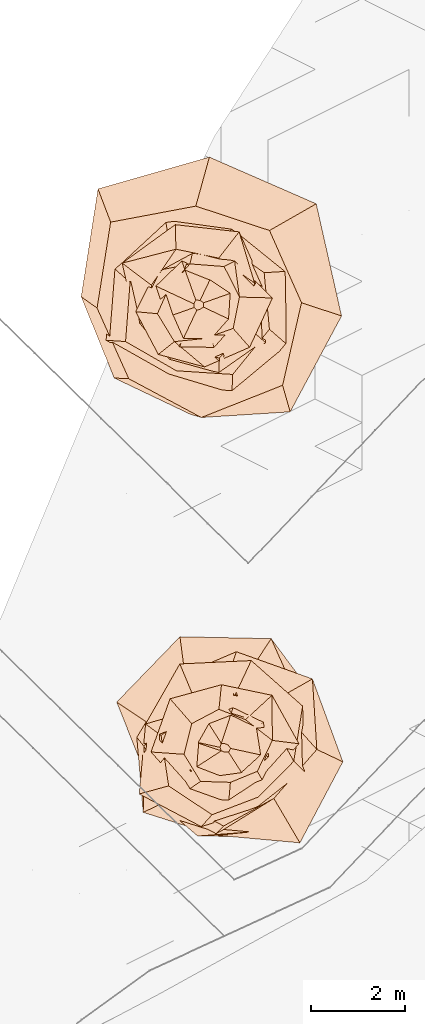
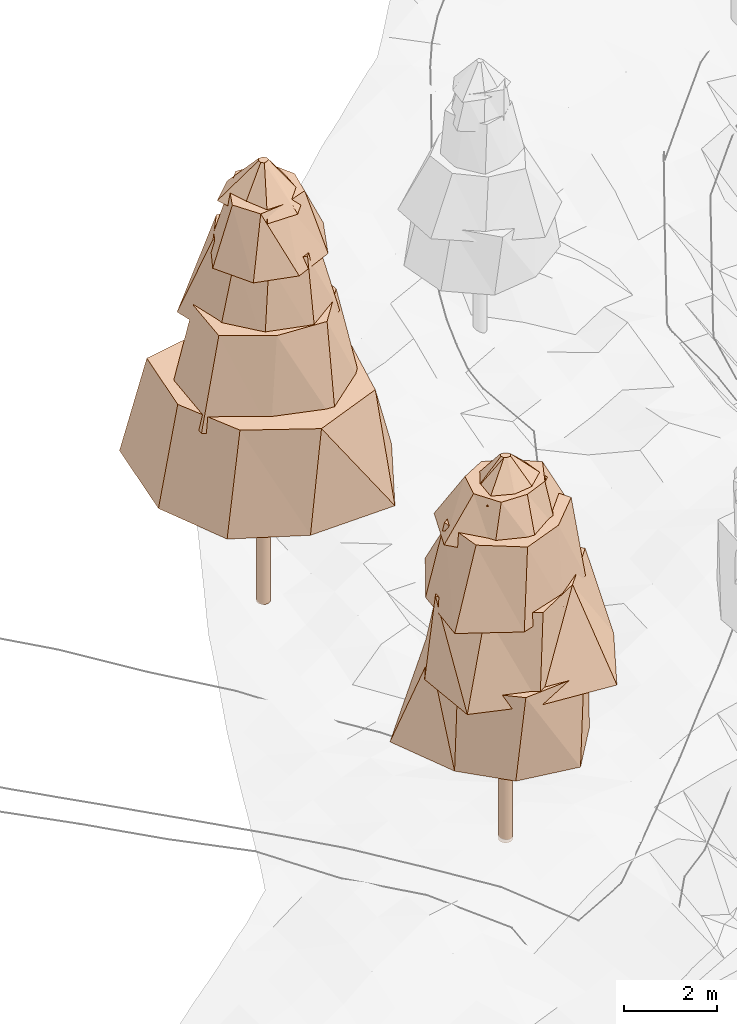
# Not in any storey, part 36 of 88: 2 geographic elements.
"""IFC4 model written with IfcOpenShell, lengths in metres."""

from ifc_helpers import new_model, si_unit, frame, origin_with_axes, place, context, subcontext, project, spatial, circle, extrude, faceted_brep, element, save


model = new_model("IFC4")

# Units and contexts
model_context = context("Model", 3, precision=1e-05, world=origin_with_axes())
body_context = subcontext(model_context, "Body", "Model", "MODEL_VIEW")
ifc_project = project(units=[si_unit("LENGTHUNIT", "METRE"), si_unit("AREAUNIT", "SQUARE_METRE"), si_unit("VOLUMEUNIT", "CUBIC_METRE"), si_unit("PLANEANGLEUNIT", "RADIAN")], contexts=[model_context])

# Sites
site_1_placement = place(None, origin_with_axes())
site_1 = spatial("IfcSite", under=ifc_project, at=site_1_placement, Name="CH907857693633", CompositionType="ELEMENT")
site_2_placement = place(None, origin_with_axes())
site_2 = spatial("IfcSite", under=site_1, at=site_2_placement, Name="Simulated_forest", CompositionType="ELEMENT")

# Geographic elements
geographic_element_1_placement = place(None, frame((82.0884420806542, 55.5950034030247, 3.125244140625), z_axis=(0.0, 0.0, 1.0), x_axis=(1.0, 0.0, 0.0)))
element("IfcGeographicElement", 1, at=geographic_element_1_placement, inside=site_2, Name="Tree_SIMULATED_WOODED_AREA", ObjectType="VEGETATION", PredefinedType="USERDEFINED", context=body_context, shape_type="Brep", body=[
    extrude(circle(Radius=0.15), origin_with_axes(), (0.0, 0.0, 1.0), 2.75114978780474),
    faceted_brep([(1.66659085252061, -0.704743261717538, 2.75114978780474), (0.764788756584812, -1.8855062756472, 2.75114978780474), (-0.696642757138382, -1.64743461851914, 2.75114978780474), (-1.64582508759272, -0.667570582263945, 2.75114978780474), (-2.29855084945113, 0.971977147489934, 2.75114978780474), (-0.95687576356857, 2.35907659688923, 2.75114978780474), (0.980467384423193, 2.3186287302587, 2.75114978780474), (2.07720635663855, 0.842545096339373, 2.75114978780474), (1.63094673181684, 0.860183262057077, 5.02940548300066), (0.481930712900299, 1.55761410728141, 5.02940548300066), (-0.86029541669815, 1.63115938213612, 5.02940548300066), (-1.57785423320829, 0.488193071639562, 5.02940548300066), (-1.71095250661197, -0.902379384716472, 5.02940548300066), (-0.579352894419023, -1.87248543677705, 5.02940548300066), (0.925437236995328, -1.75467124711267, 5.02940548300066), (1.73129746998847, -0.535668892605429, 5.02940548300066), (2.07720635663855, 0.842545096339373, 2.75114978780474), (0.980467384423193, 2.3186287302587, 2.75114978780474), (0.481930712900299, 1.55761410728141, 5.02940548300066), (1.63094673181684, 0.860183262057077, 5.02940548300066), (0.980467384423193, 2.3186287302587, 2.75114978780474), (-0.95687576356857, 2.35907659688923, 2.75114978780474), (-0.86029541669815, 1.63115938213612, 5.02940548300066), (0.481930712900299, 1.55761410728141, 5.02940548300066), (-0.95687576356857, 2.35907659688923, 2.75114978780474), (-2.29855084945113, 0.971977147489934, 2.75114978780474), (-1.57785423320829, 0.488193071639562, 5.02940548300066), (-0.86029541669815, 1.63115938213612, 5.02940548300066), (-2.29855084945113, 0.971977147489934, 2.75114978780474), (-1.64582508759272, -0.667570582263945, 2.75114978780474), (-1.71095250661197, -0.902379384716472, 5.02940548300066), (-1.57785423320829, 0.488193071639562, 5.02940548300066), (-1.64582508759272, -0.667570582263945, 2.75114978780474), (-0.696642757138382, -1.64743461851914, 2.75114978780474), (-0.579352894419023, -1.87248543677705, 5.02940548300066), (-1.71095250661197, -0.902379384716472, 5.02940548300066), (-0.696642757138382, -1.64743461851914, 2.75114978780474), (0.764788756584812, -1.8855062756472, 2.75114978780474), (0.925437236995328, -1.75467124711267, 5.02940548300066), (-0.579352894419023, -1.87248543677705, 5.02940548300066), (0.764788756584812, -1.8855062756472, 2.75114978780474), (1.66659085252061, -0.704743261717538, 2.75114978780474), (1.73129746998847, -0.535668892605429, 5.02940548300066), (0.925437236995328, -1.75467124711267, 5.02940548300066), (1.66659085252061, -0.704743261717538, 2.75114978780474), (2.07720635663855, 0.842545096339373, 2.75114978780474), (1.63094673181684, 0.860183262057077, 5.02940548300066), (1.73129746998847, -0.535668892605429, 5.02940548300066)], [[[0, 1, 2, 3, 4, 5, 6, 7]], [[8, 9, 10, 11, 12, 13, 14, 15]], [[16, 17, 18, 19]], [[20, 21, 22, 23]], [[24, 25, 26, 27]], [[28, 29, 30, 31]], [[32, 33, 34, 35]], [[36, 37, 38, 39]], [[40, 41, 42, 43]], [[44, 45, 46, 47]]]),
    faceted_brep([(2.50198627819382, -0.295852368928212, 4.68766712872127), (1.59049727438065, -2.01708279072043, 4.68766712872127), (-0.218912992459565, -1.85131964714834, 4.68766712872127), (-1.73624955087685, -1.36905643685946, 4.68766712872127), (-1.87191459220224, 0.221348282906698, 4.68766712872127), (-1.14200066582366, 1.44829540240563, 4.68766712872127), (0.241297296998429, 2.04062089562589, 4.68766712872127), (1.85612954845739, 1.46358344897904, 4.68766712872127), (1.03194326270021, 0.996043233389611, 6.93624123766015), (0.0243539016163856, 1.37574772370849, 6.93624123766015), (-0.960427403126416, 0.995043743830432, 6.93624123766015), (-1.71945439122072, 0.0304383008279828, 6.93624123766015), (-1.11705241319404, -1.07819154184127, 6.93624123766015), (-0.0293757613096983, -1.65943171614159, 6.93624123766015), (1.03701347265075, -1.0743901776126, 6.93624123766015), (1.95031231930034, -0.0345250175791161, 6.93624123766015), (1.85612954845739, 1.46358344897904, 4.68766712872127), (0.241297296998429, 2.04062089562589, 4.68766712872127), (0.0243539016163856, 1.37574772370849, 6.93624123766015), (1.03194326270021, 0.996043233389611, 6.93624123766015), (0.241297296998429, 2.04062089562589, 4.68766712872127), (-1.14200066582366, 1.44829540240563, 4.68766712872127), (-0.960427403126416, 0.995043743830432, 6.93624123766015), (0.0243539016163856, 1.37574772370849, 6.93624123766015), (-1.14200066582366, 1.44829540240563, 4.68766712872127), (-1.87191459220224, 0.221348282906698, 4.68766712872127), (-1.71945439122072, 0.0304383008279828, 6.93624123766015), (-0.960427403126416, 0.995043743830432, 6.93624123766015), (-1.87191459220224, 0.221348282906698, 4.68766712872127), (-1.73624955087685, -1.36905643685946, 4.68766712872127), (-1.11705241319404, -1.07819154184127, 6.93624123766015), (-1.71945439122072, 0.0304383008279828, 6.93624123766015), (-1.73624955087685, -1.36905643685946, 4.68766712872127), (-0.218912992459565, -1.85131964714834, 4.68766712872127), (-0.0293757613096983, -1.65943171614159, 6.93624123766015), (-1.11705241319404, -1.07819154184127, 6.93624123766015), (-0.218912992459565, -1.85131964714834, 4.68766712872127), (1.59049727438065, -2.01708279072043, 4.68766712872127), (1.03701347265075, -1.0743901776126, 6.93624123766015), (-0.0293757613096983, -1.65943171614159, 6.93624123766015), (1.59049727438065, -2.01708279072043, 4.68766712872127), (2.50198627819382, -0.295852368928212, 4.68766712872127), (1.95031231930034, -0.0345250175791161, 6.93624123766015), (1.03701347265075, -1.0743901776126, 6.93624123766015), (2.50198627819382, -0.295852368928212, 4.68766712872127), (1.85612954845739, 1.46358344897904, 4.68766712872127), (1.03194326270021, 0.996043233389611, 6.93624123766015), (1.95031231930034, -0.0345250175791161, 6.93624123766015)], [[[0, 1, 2, 3, 4, 5, 6, 7]], [[8, 9, 10, 11, 12, 13, 14, 15]], [[16, 17, 18, 19]], [[20, 21, 22, 23]], [[24, 25, 26, 27]], [[28, 29, 30, 31]], [[32, 33, 34, 35]], [[36, 37, 38, 39]], [[40, 41, 42, 43]], [[44, 45, 46, 47]]]),
    faceted_brep([(1.68505505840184, -0.506060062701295, 6.59895512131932), (0.69287980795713, -1.28768945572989, 6.59895512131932), (-0.502567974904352, -1.67342726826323, 6.59895512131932), (-1.82062383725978, -0.979641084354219, 6.59895512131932), (-1.68642132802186, 0.506470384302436, 6.59895512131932), (-0.958575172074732, 1.78147368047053, 6.59895512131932), (0.556548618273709, 1.85316948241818, 6.59895512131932), (1.64832837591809, 0.886932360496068, 6.59895512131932), (0.945760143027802, 0.638244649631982, 8.58702425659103), (0.219734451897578, 1.13184679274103, 8.58702425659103), (-0.563502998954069, 0.835006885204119, 8.58702425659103), (-1.35678329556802, 0.263403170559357, 8.58702425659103), (-1.19604720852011, -0.807150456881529, 8.58702425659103), (-0.275732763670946, -1.42029272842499, 8.58702425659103), (0.705463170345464, -1.04536551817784, 8.58702425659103), (1.46027063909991, -0.283493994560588, 8.58702425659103), (1.64832837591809, 0.886932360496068, 6.59895512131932), (0.556548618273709, 1.85316948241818, 6.59895512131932), (0.219734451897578, 1.13184679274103, 8.58702425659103), (0.945760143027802, 0.638244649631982, 8.58702425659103), (0.556548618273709, 1.85316948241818, 6.59895512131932), (-0.958575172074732, 1.78147368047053, 6.59895512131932), (-0.563502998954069, 0.835006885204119, 8.58702425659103), (0.219734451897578, 1.13184679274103, 8.58702425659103), (-0.958575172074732, 1.78147368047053, 6.59895512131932), (-1.68642132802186, 0.506470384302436, 6.59895512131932), (-1.35678329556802, 0.263403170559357, 8.58702425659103), (-0.563502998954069, 0.835006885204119, 8.58702425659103), (-1.68642132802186, 0.506470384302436, 6.59895512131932), (-1.82062383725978, -0.979641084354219, 6.59895512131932), (-1.19604720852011, -0.807150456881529, 8.58702425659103), (-1.35678329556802, 0.263403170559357, 8.58702425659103), (-1.82062383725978, -0.979641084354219, 6.59895512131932), (-0.502567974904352, -1.67342726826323, 6.59895512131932), (-0.275732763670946, -1.42029272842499, 8.58702425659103), (-1.19604720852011, -0.807150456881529, 8.58702425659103), (-0.502567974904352, -1.67342726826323, 6.59895512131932), (0.69287980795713, -1.28768945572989, 6.59895512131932), (0.705463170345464, -1.04536551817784, 8.58702425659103), (-0.275732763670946, -1.42029272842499, 8.58702425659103), (0.69287980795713, -1.28768945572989, 6.59895512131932), (1.68505505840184, -0.506060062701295, 6.59895512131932), (1.46027063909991, -0.283493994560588, 8.58702425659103), (0.705463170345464, -1.04536551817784, 8.58702425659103), (1.68505505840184, -0.506060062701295, 6.59895512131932), (1.64832837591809, 0.886932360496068, 6.59895512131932), (0.945760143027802, 0.638244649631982, 8.58702425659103), (1.46027063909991, -0.283493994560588, 8.58702425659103)], [[[0, 1, 2, 3, 4, 5, 6, 7]], [[8, 9, 10, 11, 12, 13, 14, 15]], [[16, 17, 18, 19]], [[20, 21, 22, 23]], [[24, 25, 26, 27]], [[28, 29, 30, 31]], [[32, 33, 34, 35]], [[36, 37, 38, 39]], [[40, 41, 42, 43]], [[44, 45, 46, 47]]]),
    faceted_brep([(0.827231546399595, -0.73948862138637, 8.28881388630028), (0.0695762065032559, -1.24233886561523, 8.28881388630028), (-0.825455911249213, -0.923399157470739, 8.28881388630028), (-1.57033440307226, -0.0879453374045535, 8.28881388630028), (-1.16605509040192, 1.04237377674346, 8.28881388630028), (-0.0750375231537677, 1.33985504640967, 8.28881388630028), (0.997983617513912, 1.11639788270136, 8.28881388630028), (1.57004114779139, 0.0879289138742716, 8.28881388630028), (1.00587919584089, 0.158146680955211, 9.41165623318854), (0.434995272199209, 0.597294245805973, 9.41165623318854), (-0.128813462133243, 0.819307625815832, 9.41165623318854), (-0.70678211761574, 0.51473269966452, 9.41165623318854), (-0.869986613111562, -0.136781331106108, 9.41165623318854), (-0.518838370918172, -0.712419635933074, 9.41165623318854), (0.115154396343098, -0.73243024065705, 9.41165623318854), (0.684866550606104, -0.498772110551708, 9.41165623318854), (1.57004114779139, 0.0879289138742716, 8.28881388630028), (0.997983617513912, 1.11639788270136, 8.28881388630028), (0.434995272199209, 0.597294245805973, 9.41165623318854), (1.00587919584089, 0.158146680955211, 9.41165623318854), (0.997983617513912, 1.11639788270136, 8.28881388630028), (-0.0750375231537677, 1.33985504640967, 8.28881388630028), (-0.128813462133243, 0.819307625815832, 9.41165623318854), (0.434995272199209, 0.597294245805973, 9.41165623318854), (-0.0750375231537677, 1.33985504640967, 8.28881388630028), (-1.16605509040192, 1.04237377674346, 8.28881388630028), (-0.70678211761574, 0.51473269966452, 9.41165623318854), (-0.128813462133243, 0.819307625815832, 9.41165623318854), (-1.16605509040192, 1.04237377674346, 8.28881388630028), (-1.57033440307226, -0.0879453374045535, 8.28881388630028), (-0.869986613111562, -0.136781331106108, 9.41165623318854), (-0.70678211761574, 0.51473269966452, 9.41165623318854), (-1.57033440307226, -0.0879453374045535, 8.28881388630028), (-0.825455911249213, -0.923399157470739, 8.28881388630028), (-0.518838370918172, -0.712419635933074, 9.41165623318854), (-0.869986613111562, -0.136781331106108, 9.41165623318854), (-0.825455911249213, -0.923399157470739, 8.28881388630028), (0.0695762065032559, -1.24233886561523, 8.28881388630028), (0.115154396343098, -0.73243024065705, 9.41165623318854), (-0.518838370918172, -0.712419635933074, 9.41165623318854), (0.0695762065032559, -1.24233886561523, 8.28881388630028), (0.827231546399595, -0.73948862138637, 8.28881388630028), (0.684866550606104, -0.498772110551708, 9.41165623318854), (0.115154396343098, -0.73243024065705, 9.41165623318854), (0.827231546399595, -0.73948862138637, 8.28881388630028), (1.57004114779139, 0.0879289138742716, 8.28881388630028), (1.00587919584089, 0.158146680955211, 9.41165623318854), (0.684866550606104, -0.498772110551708, 9.41165623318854)], [[[0, 1, 2, 3, 4, 5, 6, 7]], [[8, 9, 10, 11, 12, 13, 14, 15]], [[16, 17, 18, 19]], [[20, 21, 22, 23]], [[24, 25, 26, 27]], [[28, 29, 30, 31]], [[32, 33, 34, 35]], [[36, 37, 38, 39]], [[40, 41, 42, 43]], [[44, 45, 46, 47]]]),
    faceted_brep([(0.929382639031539, -0.186868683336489, 9.2432298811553), (0.427871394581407, -0.643236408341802, 9.2432298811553), (-0.145363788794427, -0.722959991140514, 9.2432298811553), (-0.741371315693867, -0.493149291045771, 9.2432298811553), (-0.689205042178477, 0.138576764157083, 9.2432298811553), (-0.415117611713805, 0.624063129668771, 9.2432298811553), (0.171453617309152, 0.852716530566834, 9.2432298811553), (0.816233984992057, 0.542946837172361, 9.2432298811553), (0.069373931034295, 0.056905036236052, 10.032762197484), (0.00854016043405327, 0.0864906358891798, 10.032762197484), (-0.0783115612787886, 0.0954710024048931, 10.032762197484), (-0.108854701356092, 0.0107484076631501, 10.032762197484), (-0.0760419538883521, -0.062374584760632, 10.032762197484), (-0.00913641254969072, -0.0925291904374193, 10.032762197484), (0.0749021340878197, -0.0913145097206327, 10.032762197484), (0.120178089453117, -0.0118664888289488, 10.032762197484), (0.816233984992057, 0.542946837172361, 9.2432298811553), (0.171453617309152, 0.852716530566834, 9.2432298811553), (0.00854016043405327, 0.0864906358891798, 10.032762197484), (0.069373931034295, 0.056905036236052, 10.032762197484), (0.171453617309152, 0.852716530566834, 9.2432298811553), (-0.415117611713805, 0.624063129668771, 9.2432298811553), (-0.0783115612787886, 0.0954710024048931, 10.032762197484), (0.00854016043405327, 0.0864906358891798, 10.032762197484), (-0.415117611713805, 0.624063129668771, 9.2432298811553), (-0.689205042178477, 0.138576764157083, 9.2432298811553), (-0.108854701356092, 0.0107484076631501, 10.032762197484), (-0.0783115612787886, 0.0954710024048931, 10.032762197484), (-0.689205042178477, 0.138576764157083, 9.2432298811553), (-0.741371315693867, -0.493149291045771, 9.2432298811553), (-0.0760419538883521, -0.062374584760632, 10.032762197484), (-0.108854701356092, 0.0107484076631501, 10.032762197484), (-0.741371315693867, -0.493149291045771, 9.2432298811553), (-0.145363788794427, -0.722959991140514, 9.2432298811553), (-0.00913641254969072, -0.0925291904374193, 10.032762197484), (-0.0760419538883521, -0.062374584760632, 10.032762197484), (-0.145363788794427, -0.722959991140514, 9.2432298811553), (0.427871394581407, -0.643236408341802, 9.2432298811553), (0.0749021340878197, -0.0913145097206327, 10.032762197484), (-0.00913641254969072, -0.0925291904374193, 10.032762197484), (0.427871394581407, -0.643236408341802, 9.2432298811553), (0.929382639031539, -0.186868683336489, 9.2432298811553), (0.120178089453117, -0.0118664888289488, 10.032762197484), (0.0749021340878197, -0.0913145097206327, 10.032762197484), (0.929382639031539, -0.186868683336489, 9.2432298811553), (0.816233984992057, 0.542946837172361, 9.2432298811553), (0.069373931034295, 0.056905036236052, 10.032762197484), (0.120178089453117, -0.0118664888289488, 10.032762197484)], [[[0, 1, 2, 3, 4, 5, 6, 7]], [[8, 9, 10, 11, 12, 13, 14, 15]], [[16, 17, 18, 19]], [[20, 21, 22, 23]], [[24, 25, 26, 27]], [[28, 29, 30, 31]], [[32, 33, 34, 35]], [[36, 37, 38, 39]], [[40, 41, 42, 43]], [[44, 45, 46, 47]]]),
])
geographic_element_2_placement = place(None, frame((81.5237610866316, 64.9889213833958, 3.85675048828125), z_axis=(0.0, 0.0, 1.0), x_axis=(1.0, 0.0, 0.0)))
element("IfcGeographicElement", 2, at=geographic_element_2_placement, inside=site_2, Name="Tree_SIMULATED_WOODED_AREA", ObjectType="VEGETATION", PredefinedType="USERDEFINED", context=body_context, shape_type="Brep", body=[
    extrude(circle(Radius=0.15), origin_with_axes(), (0.0, 0.0, 1.0), 3.16696152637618),
    faceted_brep([(3.03918948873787, -0.224977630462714, 3.16696152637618), (1.94881593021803, -2.26040582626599, 3.16696152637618), (-0.171088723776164, -2.31121222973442, 3.16696152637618), (-1.78794270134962, -1.54148037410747, 3.16696152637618), (-2.48901468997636, 0.18425064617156, 3.16696152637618), (-2.13150416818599, 2.47230349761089, 3.16696152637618), (0.232999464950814, 3.14755526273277, 3.16696152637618), (2.50182041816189, 2.1569522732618, 3.16696152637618), (1.50946905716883, 1.59042327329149, 5.91597377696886), (-0.0550353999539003, 2.10741110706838, 5.91597377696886), (-1.8626647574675, 1.76785316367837, 5.91597377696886), (-2.15129914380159, -0.0561815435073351, 5.91597377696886), (-1.47795246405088, -1.55721641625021, 5.91597377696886), (0.0621597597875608, -2.38021652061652, 5.91597377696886), (1.78782602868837, -1.69682380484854, 5.91597377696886), (2.18912444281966, 0.0571693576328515, 5.91597377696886), (2.50182041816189, 2.1569522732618, 3.16696152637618), (0.232999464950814, 3.14755526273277, 3.16696152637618), (-0.0550353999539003, 2.10741110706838, 5.91597377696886), (1.50946905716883, 1.59042327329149, 5.91597377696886), (0.232999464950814, 3.14755526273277, 3.16696152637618), (-2.13150416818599, 2.47230349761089, 3.16696152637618), (-1.8626647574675, 1.76785316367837, 5.91597377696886), (-0.0550353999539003, 2.10741110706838, 5.91597377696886), (-2.13150416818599, 2.47230349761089, 3.16696152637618), (-2.48901468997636, 0.18425064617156, 3.16696152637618), (-2.15129914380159, -0.0561815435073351, 5.91597377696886), (-1.8626647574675, 1.76785316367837, 5.91597377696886), (-2.48901468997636, 0.18425064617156, 3.16696152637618), (-1.78794270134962, -1.54148037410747, 3.16696152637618), (-1.47795246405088, -1.55721641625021, 5.91597377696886), (-2.15129914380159, -0.0561815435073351, 5.91597377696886), (-1.78794270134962, -1.54148037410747, 3.16696152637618), (-0.171088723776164, -2.31121222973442, 3.16696152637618), (0.0621597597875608, -2.38021652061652, 5.91597377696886), (-1.47795246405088, -1.55721641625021, 5.91597377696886), (-0.171088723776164, -2.31121222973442, 3.16696152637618), (1.94881593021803, -2.26040582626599, 3.16696152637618), (1.78782602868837, -1.69682380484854, 5.91597377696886), (0.0621597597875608, -2.38021652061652, 5.91597377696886), (1.94881593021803, -2.26040582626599, 3.16696152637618), (3.03918948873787, -0.224977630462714, 3.16696152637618), (2.18912444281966, 0.0571693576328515, 5.91597377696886), (1.78782602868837, -1.69682380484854, 5.91597377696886), (3.03918948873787, -0.224977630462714, 3.16696152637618), (2.50182041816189, 2.1569522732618, 3.16696152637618), (1.50946905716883, 1.59042327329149, 5.91597377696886), (2.18912444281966, 0.0571693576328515, 5.91597377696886)], [[[0, 1, 2, 3, 4, 5, 6, 7]], [[8, 9, 10, 11, 12, 13, 14, 15]], [[16, 17, 18, 19]], [[20, 21, 22, 23]], [[24, 25, 26, 27]], [[28, 29, 30, 31]], [[32, 33, 34, 35]], [[36, 37, 38, 39]], [[40, 41, 42, 43]], [[44, 45, 46, 47]]]),
    faceted_brep([(1.92721082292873, -0.870597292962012, 5.50362193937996), (0.71049135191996, -1.88131082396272, 5.50362193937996), (-0.664056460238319, -1.46999859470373, 5.50362193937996), (-1.9590823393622, -0.73986235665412, 5.50362193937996), (-1.83710834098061, 0.829894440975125, 5.50362193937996), (-0.707441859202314, 1.87323606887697, 5.50362193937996), (0.755422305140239, 1.67225197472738, 5.50362193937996), (1.92466229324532, 0.726863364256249, 5.50362193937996), (1.39648816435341, 0.693800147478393, 7.93192961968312), (0.454847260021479, 1.3530356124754, 7.93192961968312), (-0.60282605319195, 1.21337455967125, 7.93192961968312), (-1.45094900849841, 0.487762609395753, 7.93192961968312), (-1.54620919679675, -0.768184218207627, 7.93192961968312), (-0.466723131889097, -1.38836280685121, 7.93192961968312), (0.728232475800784, -1.46579391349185, 7.93192961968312), (1.5078506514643, -0.506891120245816, 7.93192961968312), (1.92466229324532, 0.726863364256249, 5.50362193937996), (0.755422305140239, 1.67225197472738, 5.50362193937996), (0.454847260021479, 1.3530356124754, 7.93192961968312), (1.39648816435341, 0.693800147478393, 7.93192961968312), (0.755422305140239, 1.67225197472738, 5.50362193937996), (-0.707441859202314, 1.87323606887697, 5.50362193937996), (-0.60282605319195, 1.21337455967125, 7.93192961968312), (0.454847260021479, 1.3530356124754, 7.93192961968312), (-0.707441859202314, 1.87323606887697, 5.50362193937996), (-1.83710834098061, 0.829894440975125, 5.50362193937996), (-1.45094900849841, 0.487762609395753, 7.93192961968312), (-0.60282605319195, 1.21337455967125, 7.93192961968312), (-1.83710834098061, 0.829894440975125, 5.50362193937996), (-1.9590823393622, -0.73986235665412, 5.50362193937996), (-1.54620919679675, -0.768184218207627, 7.93192961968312), (-1.45094900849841, 0.487762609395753, 7.93192961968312), (-1.9590823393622, -0.73986235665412, 5.50362193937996), (-0.664056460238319, -1.46999859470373, 5.50362193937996), (-0.466723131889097, -1.38836280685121, 7.93192961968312), (-1.54620919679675, -0.768184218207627, 7.93192961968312), (-0.664056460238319, -1.46999859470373, 5.50362193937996), (0.71049135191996, -1.88131082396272, 5.50362193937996), (0.728232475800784, -1.46579391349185, 7.93192961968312), (-0.466723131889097, -1.38836280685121, 7.93192961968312), (0.71049135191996, -1.88131082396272, 5.50362193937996), (1.92721082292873, -0.870597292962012, 5.50362193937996), (1.5078506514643, -0.506891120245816, 7.93192961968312), (0.728232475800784, -1.46579391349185, 7.93192961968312), (1.92721082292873, -0.870597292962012, 5.50362193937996), (1.92466229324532, 0.726863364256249, 5.50362193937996), (1.39648816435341, 0.693800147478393, 7.93192961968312), (1.5078506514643, -0.506891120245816, 7.93192961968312)], [[[0, 1, 2, 3, 4, 5, 6, 7]], [[8, 9, 10, 11, 12, 13, 14, 15]], [[16, 17, 18, 19]], [[20, 21, 22, 23]], [[24, 25, 26, 27]], [[28, 29, 30, 31]], [[32, 33, 34, 35]], [[36, 37, 38, 39]], [[40, 41, 42, 43]], [[44, 45, 46, 47]]]),
    faceted_brep([(1.42954622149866, -0.792103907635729, 7.56768346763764), (0.429075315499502, -1.49543764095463, 7.56768346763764), (-0.661235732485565, -1.19336242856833, 7.56768346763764), (-1.32772444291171, -0.380954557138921, 7.56768346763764), (-1.61851080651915, 0.896808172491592, 7.56768346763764), (-0.491684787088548, 1.71364772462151, 7.56768346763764), (0.864788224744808, 1.56072293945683, 7.56768346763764), (1.38447216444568, 0.397236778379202, 7.56768346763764), (1.1921532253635, 0.47535504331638, 9.52801595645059), (0.43160324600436, 1.00405106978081, 9.52801595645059), (-0.475852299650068, 1.1934003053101, 9.52801595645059), (-0.998282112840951, 0.429123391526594, 9.52801595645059), (-0.902089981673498, -0.359696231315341, 9.52801595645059), (-0.399178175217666, -0.928619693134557, 9.52801595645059), (0.445958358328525, -1.11842864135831, 9.52801595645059), (1.01987342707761, -0.438404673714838, 9.52801595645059), (1.38447216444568, 0.397236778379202, 7.56768346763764), (0.864788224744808, 1.56072293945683, 7.56768346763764), (0.43160324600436, 1.00405106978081, 9.52801595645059), (1.1921532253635, 0.47535504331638, 9.52801595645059), (0.864788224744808, 1.56072293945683, 7.56768346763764), (-0.491684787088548, 1.71364772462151, 7.56768346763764), (-0.475852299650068, 1.1934003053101, 9.52801595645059), (0.43160324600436, 1.00405106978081, 9.52801595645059), (-0.491684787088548, 1.71364772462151, 7.56768346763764), (-1.61851080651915, 0.896808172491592, 7.56768346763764), (-0.998282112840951, 0.429123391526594, 9.52801595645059), (-0.475852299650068, 1.1934003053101, 9.52801595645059), (-1.61851080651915, 0.896808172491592, 7.56768346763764), (-1.32772444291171, -0.380954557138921, 7.56768346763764), (-0.902089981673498, -0.359696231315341, 9.52801595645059), (-0.998282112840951, 0.429123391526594, 9.52801595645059), (-1.32772444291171, -0.380954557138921, 7.56768346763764), (-0.661235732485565, -1.19336242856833, 7.56768346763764), (-0.399178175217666, -0.928619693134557, 9.52801595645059), (-0.902089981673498, -0.359696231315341, 9.52801595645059), (-0.661235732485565, -1.19336242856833, 7.56768346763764), (0.429075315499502, -1.49543764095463, 7.56768346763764), (0.445958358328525, -1.11842864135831, 9.52801595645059), (-0.399178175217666, -0.928619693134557, 9.52801595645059), (0.429075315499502, -1.49543764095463, 7.56768346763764), (1.42954622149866, -0.792103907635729, 7.56768346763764), (1.01987342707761, -0.438404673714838, 9.52801595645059), (0.445958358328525, -1.11842864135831, 9.52801595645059), (1.42954622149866, -0.792103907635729, 7.56768346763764), (1.38447216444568, 0.397236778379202, 7.56768346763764), (1.1921532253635, 0.47535504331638, 9.52801595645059), (1.01987342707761, -0.438404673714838, 9.52801595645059)], [[[0, 1, 2, 3, 4, 5, 6, 7]], [[8, 9, 10, 11, 12, 13, 14, 15]], [[16, 17, 18, 19]], [[20, 21, 22, 23]], [[24, 25, 26, 27]], [[28, 29, 30, 31]], [[32, 33, 34, 35]], [[36, 37, 38, 39]], [[40, 41, 42, 43]], [[44, 45, 46, 47]]]),
    faceted_brep([(1.08761508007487, -0.888863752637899, 9.23396608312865), (0.13135393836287, -1.30624676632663, 9.23396608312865), (-0.850761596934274, -1.04099322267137, 9.23396608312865), (-1.33056112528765, -0.133798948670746, 9.23396608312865), (-0.895900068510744, 0.732182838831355, 9.23396608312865), (-0.116291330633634, 1.15645694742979, 9.23396608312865), (0.76875909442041, 0.940654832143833, 9.23396608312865), (1.57200904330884, 0.15807853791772, 9.23396608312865), (0.871552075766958, 0.176873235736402, 10.7526142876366), (0.54655397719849, 0.824871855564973, 10.7526142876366), (-0.178865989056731, 0.881371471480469, 10.7526142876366), (-0.611081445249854, 0.404898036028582, 10.7526142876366), (-0.8699768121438, -0.176553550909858, 10.7526142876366), (-0.509487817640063, -0.768930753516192, 10.7526142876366), (0.142365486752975, -0.701513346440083, 10.7526142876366), (0.737703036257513, -0.488796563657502, 10.7526142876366), (1.57200904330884, 0.15807853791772, 9.23396608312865), (0.76875909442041, 0.940654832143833, 9.23396608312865), (0.54655397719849, 0.824871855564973, 10.7526142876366), (0.871552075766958, 0.176873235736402, 10.7526142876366), (0.76875909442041, 0.940654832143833, 9.23396608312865), (-0.116291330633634, 1.15645694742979, 9.23396608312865), (-0.178865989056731, 0.881371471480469, 10.7526142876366), (0.54655397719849, 0.824871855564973, 10.7526142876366), (-0.116291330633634, 1.15645694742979, 9.23396608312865), (-0.895900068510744, 0.732182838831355, 9.23396608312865), (-0.611081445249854, 0.404898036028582, 10.7526142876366), (-0.178865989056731, 0.881371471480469, 10.7526142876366), (-0.895900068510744, 0.732182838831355, 9.23396608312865), (-1.33056112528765, -0.133798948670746, 9.23396608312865), (-0.8699768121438, -0.176553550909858, 10.7526142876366), (-0.611081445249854, 0.404898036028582, 10.7526142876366), (-1.33056112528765, -0.133798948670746, 9.23396608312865), (-0.850761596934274, -1.04099322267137, 9.23396608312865), (-0.509487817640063, -0.768930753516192, 10.7526142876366), (-0.8699768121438, -0.176553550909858, 10.7526142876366), (-0.850761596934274, -1.04099322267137, 9.23396608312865), (0.13135393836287, -1.30624676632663, 9.23396608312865), (0.142365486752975, -0.701513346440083, 10.7526142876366), (-0.509487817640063, -0.768930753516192, 10.7526142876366), (0.13135393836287, -1.30624676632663, 9.23396608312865), (1.08761508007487, -0.888863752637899, 9.23396608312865), (0.737703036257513, -0.488796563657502, 10.7526142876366), (0.142365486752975, -0.701513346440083, 10.7526142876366), (1.08761508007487, -0.888863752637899, 9.23396608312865), (1.57200904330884, 0.15807853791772, 9.23396608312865), (0.871552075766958, 0.176873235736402, 10.7526142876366), (0.737703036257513, -0.488796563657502, 10.7526142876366)], [[[0, 1, 2, 3, 4, 5, 6, 7]], [[8, 9, 10, 11, 12, 13, 14, 15]], [[16, 17, 18, 19]], [[20, 21, 22, 23]], [[24, 25, 26, 27]], [[28, 29, 30, 31]], [[32, 33, 34, 35]], [[36, 37, 38, 39]], [[40, 41, 42, 43]], [[44, 45, 46, 47]]]),
    faceted_brep([(0.799346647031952, -0.364055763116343, 10.5248170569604), (0.333268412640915, -0.890726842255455, 10.5248170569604), (-0.401585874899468, -0.881750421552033, 10.5248170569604), (-0.678681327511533, -0.253930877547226, 10.5248170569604), (-0.902605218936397, 0.411084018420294, 10.5248170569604), (-0.352190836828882, 0.941300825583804, 10.5248170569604), (0.307223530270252, 0.674561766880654, 10.5248170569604), (0.843072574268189, 0.315438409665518, 10.5248170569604), (0.112055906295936, 0.0552430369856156, 11.5144415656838), (0.036620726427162, 0.107838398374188, 11.5144415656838), (-0.0548819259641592, 0.111323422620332, 11.5144415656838), (-0.0991971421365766, 0.0336862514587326, 11.5144415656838), (-0.0888998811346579, -0.0438272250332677, 11.5144415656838), (-0.0344695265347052, -0.10150368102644, 11.5144415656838), (0.0399182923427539, -0.080970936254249, 11.5144415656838), (0.10735067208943, -0.0364550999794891, 11.5144415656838), (0.843072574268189, 0.315438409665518, 10.5248170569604), (0.307223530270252, 0.674561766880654, 10.5248170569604), (0.036620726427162, 0.107838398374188, 11.5144415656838), (0.112055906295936, 0.0552430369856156, 11.5144415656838), (0.307223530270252, 0.674561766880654, 10.5248170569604), (-0.352190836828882, 0.941300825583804, 10.5248170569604), (-0.0548819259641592, 0.111323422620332, 11.5144415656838), (0.036620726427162, 0.107838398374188, 11.5144415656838), (-0.352190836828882, 0.941300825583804, 10.5248170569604), (-0.902605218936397, 0.411084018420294, 10.5248170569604), (-0.0991971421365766, 0.0336862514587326, 11.5144415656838), (-0.0548819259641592, 0.111323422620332, 11.5144415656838), (-0.902605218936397, 0.411084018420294, 10.5248170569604), (-0.678681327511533, -0.253930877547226, 10.5248170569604), (-0.0888998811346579, -0.0438272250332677, 11.5144415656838), (-0.0991971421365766, 0.0336862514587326, 11.5144415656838), (-0.678681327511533, -0.253930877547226, 10.5248170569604), (-0.401585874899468, -0.881750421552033, 10.5248170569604), (-0.0344695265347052, -0.10150368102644, 11.5144415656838), (-0.0888998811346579, -0.0438272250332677, 11.5144415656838), (-0.401585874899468, -0.881750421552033, 10.5248170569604), (0.333268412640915, -0.890726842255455, 10.5248170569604), (0.0399182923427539, -0.080970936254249, 11.5144415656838), (-0.0344695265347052, -0.10150368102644, 11.5144415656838), (0.333268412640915, -0.890726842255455, 10.5248170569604), (0.799346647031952, -0.364055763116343, 10.5248170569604), (0.10735067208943, -0.0364550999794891, 11.5144415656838), (0.0399182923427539, -0.080970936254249, 11.5144415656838), (0.799346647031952, -0.364055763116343, 10.5248170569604), (0.843072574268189, 0.315438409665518, 10.5248170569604), (0.112055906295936, 0.0552430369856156, 11.5144415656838), (0.10735067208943, -0.0364550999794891, 11.5144415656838)], [[[0, 1, 2, 3, 4, 5, 6, 7]], [[8, 9, 10, 11, 12, 13, 14, 15]], [[16, 17, 18, 19]], [[20, 21, 22, 23]], [[24, 25, 26, 27]], [[28, 29, 30, 31]], [[32, 33, 34, 35]], [[36, 37, 38, 39]], [[40, 41, 42, 43]], [[44, 45, 46, 47]]]),
])

save(model, "model.ifc")
